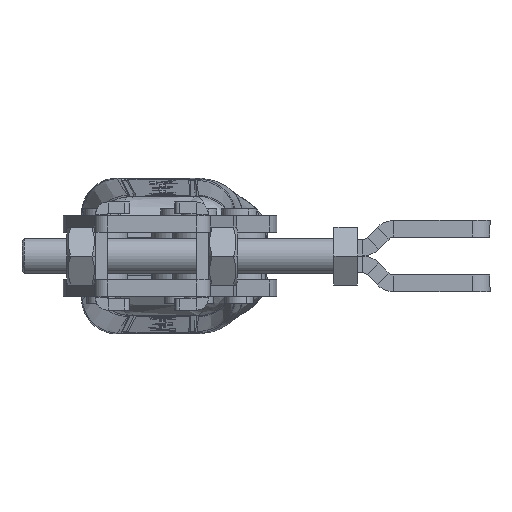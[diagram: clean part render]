
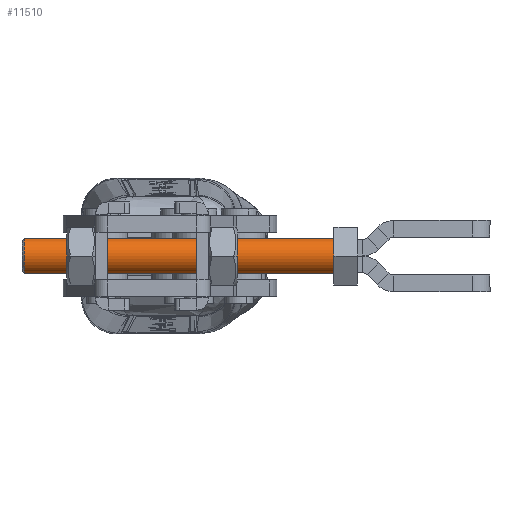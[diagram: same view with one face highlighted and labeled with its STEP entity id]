
A CAD part, left-side view. The second image highlights one B-rep face of the part: STEP entity #11510.
In plain terms, the highlighted cylindrical face has radius 4 mm (diameter 8 mm), a partial arc.
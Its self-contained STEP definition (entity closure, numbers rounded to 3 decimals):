
#548 = CARTESIAN_POINT ( 'NONE',  ( 0., -69.5, -4. ) ) ;
#1021 = ORIENTED_EDGE ( 'NONE', *, *, #7096, .T. ) ;
#2067 = VERTEX_POINT ( 'NONE', #548 ) ;
#2601 = VECTOR ( 'NONE', #8774, 1000. ) ;
#2910 = AXIS2_PLACEMENT_3D ( 'NONE', #22717, #7992, #11699 ) ;
#4618 = EDGE_CURVE ( 'NONE', #2067, #20457, #12595, .T. ) ;
#4664 = DIRECTION ( 'NONE',  ( 0., 1., 0. ) ) ;
#4843 = DIRECTION ( 'NONE',  ( 0., 1., 0. ) ) ;
#4887 = CARTESIAN_POINT ( 'NONE',  ( 0., 0., 4. ) ) ;
#5604 = CARTESIAN_POINT ( 'NONE',  ( 0., -69.5, 4. ) ) ;
#6168 = ORIENTED_EDGE ( 'NONE', *, *, #13493, .F. ) ;
#6940 = LINE ( 'NONE', #21634, #2601 ) ;
#7096 = EDGE_CURVE ( 'NONE', #19617, #22622, #9678, .T. ) ;
#7992 = DIRECTION ( 'NONE',  ( 0., 1., 0. ) ) ;
#8122 = LINE ( 'NONE', #15860, #13027 ) ;
#8774 = DIRECTION ( 'NONE',  ( 0., 1., 0. ) ) ;
#9066 = DIRECTION ( 'NONE',  ( 0., -1., 0. ) ) ;
#9630 = FACE_OUTER_BOUND ( 'NONE', #17538, .T. ) ;
#9678 = CIRCLE ( 'NONE', #18590, 4. ) ;
#11167 = AXIS2_PLACEMENT_3D ( 'NONE', #15683, #4664, #17522 ) ;
#11510 = ADVANCED_FACE ( 'NONE', ( #9630 ), #23734, .T. ) ;
#11699 = DIRECTION ( 'NONE',  ( 0., 0., 1. ) ) ;
#12182 = ORIENTED_EDGE ( 'NONE', *, *, #4618, .T. ) ;
#12595 = CIRCLE ( 'NONE', #11167, 4. ) ;
#12685 = EDGE_CURVE ( 'NONE', #20457, #19617, #8122, .T. ) ;
#13027 = VECTOR ( 'NONE', #4843, 1000. ) ;
#13493 = EDGE_CURVE ( 'NONE', #2067, #22622, #6940, .T. ) ;
#15683 = CARTESIAN_POINT ( 'NONE',  ( 0., -69.5, 0. ) ) ;
#15860 = CARTESIAN_POINT ( 'NONE',  ( 0., -70., 4. ) ) ;
#17522 = DIRECTION ( 'NONE',  ( 0., 0., -1. ) ) ;
#17538 = EDGE_LOOP ( 'NONE', ( #6168, #12182, #22479, #1021 ) ) ;
#17860 = CARTESIAN_POINT ( 'NONE',  ( 0., 0., -4. ) ) ;
#18590 = AXIS2_PLACEMENT_3D ( 'NONE', #20056, #9066, #21918 ) ;
#19617 = VERTEX_POINT ( 'NONE', #4887 ) ;
#20056 = CARTESIAN_POINT ( 'NONE',  ( 0., 0., 0. ) ) ;
#20457 = VERTEX_POINT ( 'NONE', #5604 ) ;
#21634 = CARTESIAN_POINT ( 'NONE',  ( 0., -70., -4. ) ) ;
#21918 = DIRECTION ( 'NONE',  ( 0., 0., 1. ) ) ;
#22479 = ORIENTED_EDGE ( 'NONE', *, *, #12685, .T. ) ;
#22622 = VERTEX_POINT ( 'NONE', #17860 ) ;
#22717 = CARTESIAN_POINT ( 'NONE',  ( 0., -70., 0. ) ) ;
#23734 = CYLINDRICAL_SURFACE ( 'NONE', #2910, 4. ) ;
